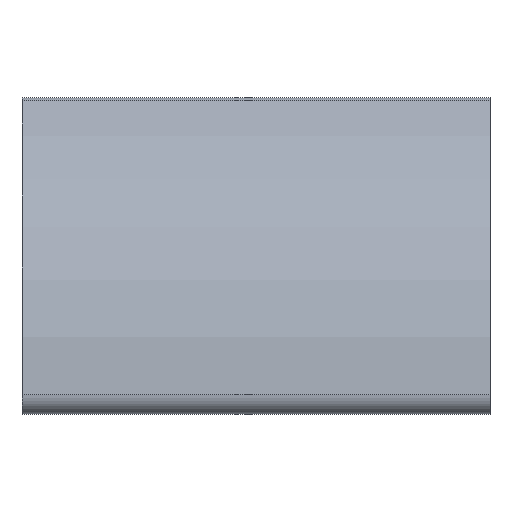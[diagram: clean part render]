
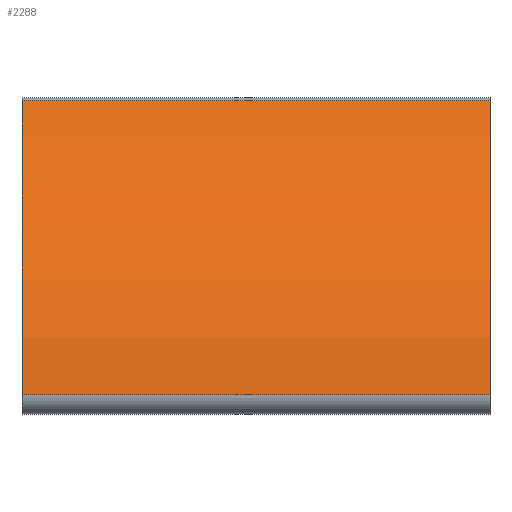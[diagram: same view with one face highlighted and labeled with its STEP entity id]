
A CAD part, left-side view. The second image highlights one B-rep face of the part: STEP entity #2288.
In plain terms, the highlighted cylindrical face has radius 80 mm (diameter 160 mm), a partial arc.
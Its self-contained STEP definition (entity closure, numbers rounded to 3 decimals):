
#17 = DIRECTION ( 'NONE',  ( 0., 0., 1. ) ) ;
#109 = DIRECTION ( 'NONE',  ( 0., 0., 1. ) ) ;
#134 = DIRECTION ( 'NONE',  ( 0., 1., 0. ) ) ;
#229 = CARTESIAN_POINT ( 'NONE',  ( 8.37, 50., 37.082 ) ) ;
#445 = VERTEX_POINT ( 'NONE', #958 ) ;
#539 = CIRCLE ( 'NONE', #1562, 80. ) ;
#552 = EDGE_LOOP ( 'NONE', ( #3779, #2936, #1665, #1441 ) ) ;
#730 = VERTEX_POINT ( 'NONE', #2111 ) ;
#749 = AXIS2_PLACEMENT_3D ( 'NONE', #1737, #134, #109 ) ;
#869 = LINE ( 'NONE', #229, #1232 ) ;
#882 = CARTESIAN_POINT ( 'NONE',  ( -27.928, 50., -25.788 ) ) ;
#958 = CARTESIAN_POINT ( 'NONE',  ( 8.37, -50., 37.082 ) ) ;
#1009 = AXIS2_PLACEMENT_3D ( 'NONE', #1779, #4215, #3236 ) ;
#1221 = FACE_OUTER_BOUND ( 'NONE', #552, .T. ) ;
#1232 = VECTOR ( 'NONE', #1530, 1000. ) ;
#1361 = DIRECTION ( 'NONE',  ( 0., 1., 0. ) ) ;
#1441 = ORIENTED_EDGE ( 'NONE', *, *, #2972, .T. ) ;
#1530 = DIRECTION ( 'NONE',  ( 0., -1., 0. ) ) ;
#1562 = AXIS2_PLACEMENT_3D ( 'NONE', #4227, #1361, #17 ) ;
#1637 = EDGE_CURVE ( 'NONE', #2426, #445, #869, .T. ) ;
#1665 = ORIENTED_EDGE ( 'NONE', *, *, #4197, .F. ) ;
#1737 = CARTESIAN_POINT ( 'NONE',  ( 51.961, 50., -29.999 ) ) ;
#1779 = CARTESIAN_POINT ( 'NONE',  ( 51.961, 50., -29.999 ) ) ;
#2111 = CARTESIAN_POINT ( 'NONE',  ( -27.928, -50., -25.788 ) ) ;
#2185 = VERTEX_POINT ( 'NONE', #882 ) ;
#2218 = CYLINDRICAL_SURFACE ( 'NONE', #1009, 80. ) ;
#2288 = ADVANCED_FACE ( 'NONE', ( #1221 ), #2218, .T. ) ;
#2296 = LINE ( 'NONE', #3672, #3557 ) ;
#2426 = VERTEX_POINT ( 'NONE', #3315 ) ;
#2936 = ORIENTED_EDGE ( 'NONE', *, *, #1637, .F. ) ;
#2972 = EDGE_CURVE ( 'NONE', #2185, #730, #2296, .T. ) ;
#3219 = EDGE_CURVE ( 'NONE', #730, #445, #539, .T. ) ;
#3236 = DIRECTION ( 'NONE',  ( 0., 0., -1. ) ) ;
#3315 = CARTESIAN_POINT ( 'NONE',  ( 8.37, 50., 37.082 ) ) ;
#3428 = CIRCLE ( 'NONE', #749, 80. ) ;
#3557 = VECTOR ( 'NONE', #3609, 1000. ) ;
#3609 = DIRECTION ( 'NONE',  ( 0., -1., 0. ) ) ;
#3672 = CARTESIAN_POINT ( 'NONE',  ( -27.928, 50., -25.788 ) ) ;
#3779 = ORIENTED_EDGE ( 'NONE', *, *, #3219, .T. ) ;
#4197 = EDGE_CURVE ( 'NONE', #2185, #2426, #3428, .T. ) ;
#4215 = DIRECTION ( 'NONE',  ( 0., -1., 0. ) ) ;
#4227 = CARTESIAN_POINT ( 'NONE',  ( 51.961, -50., -29.999 ) ) ;
